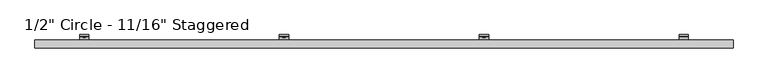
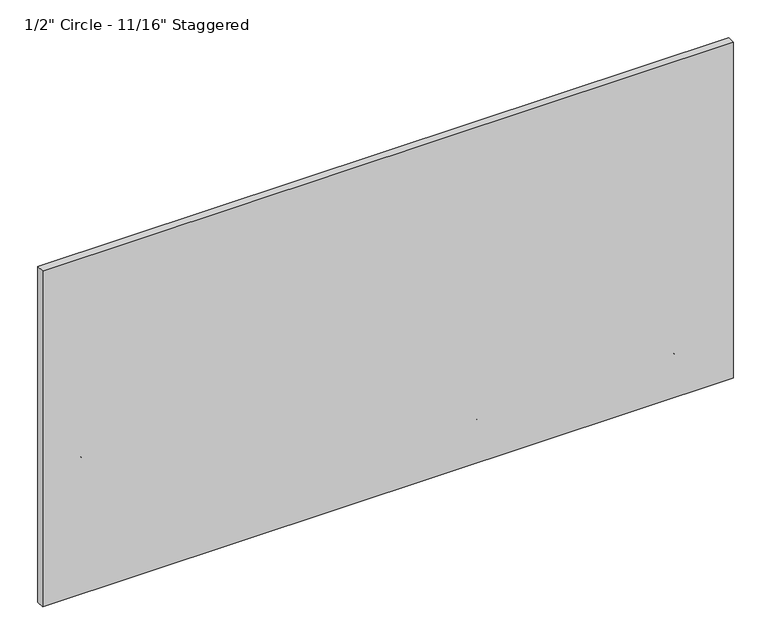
"""IFC4 building model written with IfcOpenShell, lengths in millimetres: plate geometry."""

from ifc_helpers import new_model, si_unit, point, frame, frame_2d, origin, place, context, project, spatial, polyline, circle_curve, trimmed, segment, composite_curve, outline, extrude, source, transform, mapped, element, save
from ifc_brep_helpers import plane_surface, cylinder_surface, revolved_surface, advanced_brep


def plate_ad452986(model_context):
    return source(origin(), model_context, "Body", "SolidModel", [
        advanced_brep(
        [(1216.025, -47.625, 561.2468868), (1216.025, -51.2819443, 553.5848544), (1216.025, -89.5163624, 526.8128266), (1216.025, -92.9330442, 530.2295084), (1216.025, -54.3526876, 557.2437649), (1216.025, -52.4002, 561.2469577), (1216.025, -52.4002, 595.439572), (1216.025, -47.625, 595.439572), (1254.125, -47.625, 561.2468868), (1254.125, -47.625, 595.439572), (1254.125, -52.4002, 595.439572), (1254.125, -52.4002, 561.2469577), (1254.125, -54.3526876, 557.2437649), (1254.125, -92.9330442, 530.2295084), (1254.125, -89.5163624, 526.8128266), (1254.125, -51.2819443, 553.5848544), (1241.8161889, -52.4002, 581.3943558), (1241.8161889, -52.4002, 575.0443558), (1225.5883287, -52.4002, 575.0443558), (1225.5883287, -52.4002, 581.3943558), (1241.8161889, -47.625, 575.0443558), (1241.8161889, -47.625, 581.3943558), (1225.5883287, -47.625, 581.3943558), (1225.5883287, -47.625, 575.0443558)],
        [
            (0, 1, circle_curve(frame((1216.025, -57.4802202, 561.2468868), z_axis=(-1.0, 0.0, 0.0), x_axis=(0.0, -1.0, 0.0)), 9.8552202)),
            (1, 2),
            (2, 3),
            (3, 4),
            (4, 5, circle_curve(frame((1216.025, -57.4803246, 561.2469577), z_axis=(1.0, 0.0, 0.0), x_axis=(0.0, -1.0, 0.0)), 5.0801246)),
            (5, 6),
            (6, 7),
            (7, 0),
            (8, 9),
            (9, 10),
            (10, 11),
            (11, 12, circle_curve(frame((1254.125, -57.4803246, 561.2469577), z_axis=(-1.0, 0.0, 0.0), x_axis=(0.0, -1.0, 0.0)), 5.0801246)),
            (12, 13),
            (13, 14),
            (14, 15),
            (15, 8, circle_curve(frame((1254.125, -57.4802202, 561.2468868), z_axis=(1.0, 0.0, 0.0), x_axis=(0.0, -1.0, 0.0)), 9.8552202)),
            (4, 12),
            (11, 5),
            (10, 6),
            (16, 17, circle_curve(frame((1241.8161889, -52.4002, 578.2193558), z_axis=(0.0, 1.0, 0.0), x_axis=(0.0, 0.0, -1.0)), 3.175)),
            (17, 18),
            (18, 19, circle_curve(frame((1225.5883287, -52.4002, 578.2193558), z_axis=(0.0, 1.0, 0.0), x_axis=(0.0, 0.0, -1.0)), 3.175)),
            (19, 16),
            (9, 7),
            (8, 0),
            (20, 21, circle_curve(frame((1241.8161889, -47.625, 578.2193558), z_axis=(0.0, -1.0, 0.0), x_axis=(0.0, 0.0, -1.0)), 3.175)),
            (21, 22),
            (22, 23, circle_curve(frame((1225.5883287, -47.625, 578.2193558), z_axis=(0.0, -1.0, 0.0), x_axis=(0.0, 0.0, -1.0)), 3.175)),
            (23, 20),
            (15, 1),
            (20, 17),
            (16, 21),
            (19, 22),
            (18, 23),
            (14, 2),
            (13, 3),
        ],
        [
            plane_surface(frame((1216.025, -67.3354404, 561.2468868), z_axis=(-1.0, 0.0, 0.0), x_axis=(0.0, 0.0, 1.0))),
            plane_surface(frame((1254.125, -67.3354404, 561.2468868), z_axis=(1.0, 0.0, 0.0), x_axis=(0.0, 0.0, -1.0))),
            revolved_surface(polyline([(1254.125, -62.5604492, 561.2469577), (1216.025, -62.5604492, 561.2469577)]), (1254.125, -57.4803246, 561.2469577), (1.0, 0.0, 0.0)),
            plane_surface(frame((1216.025, -52.4002, 561.2469577), z_axis=(0.0, -1.0, 0.0), x_axis=(1.0, 0.0, 0.0))),
            plane_surface(frame((1216.025, -52.4002, 595.439572), z_axis=(0.0, 0.0, 1.0), x_axis=(1.0, 0.0, 0.0))),
            plane_surface(frame((1216.025, -47.625, 595.439572), z_axis=(0.0, 1.0, 6.99569853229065e-12), x_axis=(1.0, 0.0, 0.0))),
            cylinder_surface(frame((1254.125, -57.4802202, 561.2468868), z_axis=(-1.0, 0.0, 0.0), x_axis=(0.0, -1.0, 0.0)), 9.8552202),
            revolved_surface(polyline([(1241.8161889, -52.4002, 575.0443558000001), (1241.8161889, -47.625, 575.0443558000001)]), (1241.8161889, -25.6669948, 578.2193558), (0.0, -1.0, 0.0)),
            plane_surface(frame((1241.8161889, -86.677982, 581.3943558), z_axis=(0.0, 0.0, -1.0), x_axis=(0.0, 1.0, 0.0))),
            revolved_surface(polyline([(1225.5883287, -52.4002, 575.0443558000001), (1225.5883287, -47.625, 575.0443558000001)]), (1225.5883287, -25.6669948, 578.2193558), (0.0, -1.0, 0.0)),
            plane_surface(frame((1225.5883287, -86.677982, 575.0443558), z_axis=(-2.7237733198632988e-11, 0.0, 1.0), x_axis=(0.0, 1.0, 0.0))),
            plane_surface(frame((1216.025, -51.2819443, 553.5848544), z_axis=(0.0, 0.5735764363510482, -0.8191520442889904), x_axis=(1.0, 0.0, 0.0))),
            plane_surface(frame((1216.025, -89.5163624, 526.8128266), z_axis=(0.0, -0.7071067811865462, -0.7071067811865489), x_axis=(1.0, 0.0, 0.0))),
            plane_surface(frame((1216.025, -92.9330442, 530.2295084), z_axis=(0.0, -0.5735764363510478, 0.8191520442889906), x_axis=(1.0, 0.0, 0.0))),
        ],
        [
            (0, [[1, 2, 3, 4, 5, 6, 7, 8]]),
            (1, [[9, 10, 11, 12, 13, 14, 15, 16]]),
            (2, [[-5, 17, -12, 18]]),
            (3, [[-6, -18, -11, 19], [20, 21, 22, 23]]),
            (4, [[-7, -19, -10, 24]]),
            (5, [[-8, -24, -9, 25], [26, 27, 28, 29]]),
            (6, [[-1, -25, -16, 30]]),
            (7, [[31, -20, 32, -26]]),
            (8, [[-32, -23, 33, -27]]),
            (9, [[-33, -22, 34, -28]]),
            (10, [[-31, -29, -34, -21]]),
            (11, [[-2, -30, -15, 35]]),
            (12, [[-3, -35, -14, 36]]),
            (13, [[-4, -36, -13, -17]]),
        ],
    ),
        extrude(outline(polyline([(578.3961989, 406.6736701), (574.0504864, 409.1826684), (574.0504864, 414.200665), (578.3961989, 416.7096632), (582.7419114, 414.200665), (582.7419114, 409.1826684), (578.3961989, 406.6736701)])), frame((0.0, -58.7607779, 0.0), z_axis=(0.0, 1.0, 0.0), x_axis=(0.0, 0.0, 1.0)), (0.0, 0.0, 1.0), 11.1357779),
        extrude(outline(composite_curve([segment(trimmed(circle_curve(frame_2d((578.4895059, 411.6916667)), 6.35), [point((578.4895059, 418.0416667))], [point((578.4895059, 405.3416667))], False, "CARTESIAN"), True, "CONTINUOUS"), segment(trimmed(circle_curve(frame_2d((578.4895059, 411.6916667)), 6.35), [point((578.4895059, 405.3416667))], [point((578.4895059, 418.0416667))], False, "CARTESIAN"), True, "CONTINUOUS")], self_intersect=False)), frame((0.0, -57.0817743, 0.0), z_axis=(0.0, 1.0, 0.0), x_axis=(0.0, 0.0, 1.0)), (0.0, 0.0, 1.0), 9.4567743),
        advanced_brep(
        [(392.6416667, -47.625, 561.2468868), (392.6416667, -51.2819443, 553.5848544), (392.6416667, -89.5163624, 526.8128266), (392.6416667, -92.9330442, 530.2295084), (392.6416667, -54.3526876, 557.2437649), (392.6416667, -52.4002, 561.2469577), (392.6416667, -52.4002, 595.439572), (392.6416667, -47.625, 595.439572), (430.7416667, -47.625, 561.2468868), (430.7416667, -47.625, 595.439572), (430.7416667, -52.4002, 595.439572), (430.7416667, -52.4002, 561.2469577), (430.7416667, -54.3526876, 557.2437649), (430.7416667, -92.9330442, 530.2295084), (430.7416667, -89.5163624, 526.8128266), (430.7416667, -51.2819443, 553.5848544), (418.4328556, -52.4002, 581.3943558), (418.4328556, -52.4002, 575.0443558), (402.2049954, -52.4002, 575.0443558), (402.2049954, -52.4002, 581.3943558), (418.4328556, -47.625, 575.0443558), (418.4328556, -47.625, 581.3943558), (402.2049954, -47.625, 581.3943558), (402.2049954, -47.625, 575.0443558)],
        [
            (0, 1, circle_curve(frame((392.6416667, -57.4802202, 561.2468868), z_axis=(-1.0, 0.0, 0.0), x_axis=(0.0, -1.0, 0.0)), 9.8552202)),
            (1, 2),
            (2, 3),
            (3, 4),
            (4, 5, circle_curve(frame((392.6416667, -57.4803246, 561.2469577), z_axis=(1.0, 0.0, 0.0), x_axis=(0.0, -1.0, 0.0)), 5.0801246)),
            (5, 6),
            (6, 7),
            (7, 0),
            (8, 9),
            (9, 10),
            (10, 11),
            (11, 12, circle_curve(frame((430.7416667, -57.4803246, 561.2469577), z_axis=(-1.0, 0.0, 0.0), x_axis=(0.0, -1.0, 0.0)), 5.0801246)),
            (12, 13),
            (13, 14),
            (14, 15),
            (15, 8, circle_curve(frame((430.7416667, -57.4802202, 561.2468868), z_axis=(1.0, 0.0, 0.0), x_axis=(0.0, -1.0, 0.0)), 9.8552202)),
            (4, 12),
            (11, 5),
            (10, 6),
            (16, 17, circle_curve(frame((418.4328556, -52.4002, 578.2193558), z_axis=(0.0, 1.0, 0.0), x_axis=(0.0, 0.0, -1.0)), 3.175)),
            (17, 18),
            (18, 19, circle_curve(frame((402.2049954, -52.4002, 578.2193558), z_axis=(0.0, 1.0, 0.0), x_axis=(0.0, 0.0, -1.0)), 3.175)),
            (19, 16),
            (9, 7),
            (8, 0),
            (20, 21, circle_curve(frame((418.4328556, -47.625, 578.2193558), z_axis=(0.0, -1.0, 0.0), x_axis=(0.0, 0.0, -1.0)), 3.175)),
            (21, 22),
            (22, 23, circle_curve(frame((402.2049954, -47.625, 578.2193558), z_axis=(0.0, -1.0, 0.0), x_axis=(0.0, 0.0, -1.0)), 3.175)),
            (23, 20),
            (15, 1),
            (20, 17),
            (16, 21),
            (19, 22),
            (18, 23),
            (14, 2),
            (13, 3),
        ],
        [
            plane_surface(frame((392.6416667, -67.3354404, 561.2468868), z_axis=(-1.0, 0.0, 0.0), x_axis=(0.0, 0.0, 1.0))),
            plane_surface(frame((430.7416667, -67.3354404, 561.2468868), z_axis=(1.0, 0.0, 0.0), x_axis=(0.0, 0.0, -1.0))),
            revolved_surface(polyline([(430.7416667, -62.5604492, 561.2469577), (392.6416667, -62.5604492, 561.2469577)]), (430.7416667, -57.4803246, 561.2469577), (1.0, 0.0, 0.0)),
            plane_surface(frame((392.6416667, -52.4002, 561.2469577), z_axis=(0.0, -1.0, 0.0), x_axis=(1.0, 0.0, 0.0))),
            plane_surface(frame((392.6416667, -52.4002, 595.439572), z_axis=(0.0, 0.0, 1.0), x_axis=(1.0, 0.0, 0.0))),
            plane_surface(frame((392.6416667, -47.625, 595.439572), z_axis=(0.0, 1.0, 6.99569853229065e-12), x_axis=(1.0, 0.0, 0.0))),
            cylinder_surface(frame((430.7416667, -57.4802202, 561.2468868), z_axis=(-1.0, 0.0, 0.0), x_axis=(0.0, -1.0, 0.0)), 9.8552202),
            revolved_surface(polyline([(418.4328556, -52.4002, 575.0443558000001), (418.4328556, -47.625, 575.0443558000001)]), (418.4328556, -25.6669948, 578.2193558), (0.0, -1.0, 0.0)),
            plane_surface(frame((418.4328556, -86.677982, 581.3943558), z_axis=(0.0, 0.0, -1.0), x_axis=(0.0, 1.0, 0.0))),
            revolved_surface(polyline([(402.2049954, -52.4002, 575.0443558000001), (402.2049954, -47.625, 575.0443558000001)]), (402.2049954, -25.6669948, 578.2193558), (0.0, -1.0, 0.0)),
            plane_surface(frame((402.2049954, -86.677982, 575.0443558), z_axis=(-2.7237733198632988e-11, 0.0, 1.0), x_axis=(0.0, 1.0, 0.0))),
            plane_surface(frame((392.6416667, -51.2819443, 553.5848544), z_axis=(0.0, 0.5735764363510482, -0.8191520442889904), x_axis=(1.0, 0.0, 0.0))),
            plane_surface(frame((392.6416667, -89.5163624, 526.8128266), z_axis=(0.0, -0.7071067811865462, -0.7071067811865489), x_axis=(1.0, 0.0, 0.0))),
            plane_surface(frame((392.6416667, -92.9330442, 530.2295084), z_axis=(0.0, -0.5735764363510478, 0.8191520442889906), x_axis=(1.0, 0.0, 0.0))),
        ],
        [
            (0, [[1, 2, 3, 4, 5, 6, 7, 8]]),
            (1, [[9, 10, 11, 12, 13, 14, 15, 16]]),
            (2, [[-5, 17, -12, 18]]),
            (3, [[-6, -18, -11, 19], [20, 21, 22, 23]]),
            (4, [[-7, -19, -10, 24]]),
            (5, [[-8, -24, -9, 25], [26, 27, 28, 29]]),
            (6, [[-1, -25, -16, 30]]),
            (7, [[31, -20, 32, -26]]),
            (8, [[-32, -23, 33, -27]]),
            (9, [[-33, -22, 34, -28]]),
            (10, [[-31, -29, -34, -21]]),
            (11, [[-2, -30, -15, 35]]),
            (12, [[-3, -35, -14, 36]]),
            (13, [[-4, -36, -13, -17]]),
        ],
    ),
        extrude(outline(polyline([(578.3961989, -416.7096632), (574.0504864, -414.200665), (574.0504864, -409.1826684), (578.3961989, -406.6736701), (582.7419114, -409.1826684), (582.7419114, -414.200665), (578.3961989, -416.7096632)])), frame((0.0, -58.7607779, 0.0), z_axis=(0.0, 1.0, 0.0), x_axis=(0.0, 0.0, 1.0)), (0.0, 0.0, 1.0), 11.1357779),
        extrude(outline(composite_curve([segment(trimmed(circle_curve(frame_2d((578.4895059, -411.6916667)), 6.35), [point((578.4895059, -405.3416667))], [point((578.4895059, -418.0416667))], False, "CARTESIAN"), True, "CONTINUOUS"), segment(trimmed(circle_curve(frame_2d((578.4895059, -411.6916667)), 6.35), [point((578.4895059, -418.0416667))], [point((578.4895059, -405.3416667))], False, "CARTESIAN"), True, "CONTINUOUS")], self_intersect=False)), frame((0.0, -57.0817743, 0.0), z_axis=(0.0, 1.0, 0.0), x_axis=(0.0, 0.0, 1.0)), (0.0, 0.0, 1.0), 9.4567743),
        advanced_brep(
        [(-430.7416667, -47.625, 561.2468868), (-430.7416667, -51.2819443, 553.5848544), (-430.7416667, -89.5163624, 526.8128266), (-430.7416667, -92.9330442, 530.2295084), (-430.7416667, -54.3526876, 557.2437649), (-430.7416667, -52.4002, 561.2469577), (-430.7416667, -52.4002, 595.439572), (-430.7416667, -47.625, 595.439572), (-392.6416667, -47.625, 561.2468868), (-392.6416667, -47.625, 595.439572), (-392.6416667, -52.4002, 595.439572), (-392.6416667, -52.4002, 561.2469577), (-392.6416667, -54.3526876, 557.2437649), (-392.6416667, -92.9330442, 530.2295084), (-392.6416667, -89.5163624, 526.8128266), (-392.6416667, -51.2819443, 553.5848544), (-404.9504778, -52.4002, 581.3943558), (-404.9504778, -52.4002, 575.0443558), (-421.178338, -52.4002, 575.0443558), (-421.178338, -52.4002, 581.3943558), (-404.9504778, -47.625, 575.0443558), (-404.9504778, -47.625, 581.3943558), (-421.178338, -47.625, 581.3943558), (-421.178338, -47.625, 575.0443558)],
        [
            (0, 1, circle_curve(frame((-430.7416667, -57.4802202, 561.2468868), z_axis=(-1.0, 0.0, 0.0), x_axis=(0.0, -1.0, 0.0)), 9.8552202)),
            (1, 2),
            (2, 3),
            (3, 4),
            (4, 5, circle_curve(frame((-430.7416667, -57.4803246, 561.2469577), z_axis=(1.0, 0.0, 0.0), x_axis=(0.0, -1.0, 0.0)), 5.0801246)),
            (5, 6),
            (6, 7),
            (7, 0),
            (8, 9),
            (9, 10),
            (10, 11),
            (11, 12, circle_curve(frame((-392.6416667, -57.4803246, 561.2469577), z_axis=(-1.0, 0.0, 0.0), x_axis=(0.0, -1.0, 0.0)), 5.0801246)),
            (12, 13),
            (13, 14),
            (14, 15),
            (15, 8, circle_curve(frame((-392.6416667, -57.4802202, 561.2468868), z_axis=(1.0, 0.0, 0.0), x_axis=(0.0, -1.0, 0.0)), 9.8552202)),
            (4, 12),
            (11, 5),
            (10, 6),
            (16, 17, circle_curve(frame((-404.9504778, -52.4002, 578.2193558), z_axis=(0.0, 1.0, 0.0), x_axis=(0.0, 0.0, -1.0)), 3.175)),
            (17, 18),
            (18, 19, circle_curve(frame((-421.178338, -52.4002, 578.2193558), z_axis=(0.0, 1.0, 0.0), x_axis=(0.0, 0.0, -1.0)), 3.175)),
            (19, 16),
            (9, 7),
            (8, 0),
            (20, 21, circle_curve(frame((-404.9504778, -47.625, 578.2193558), z_axis=(0.0, -1.0, 0.0), x_axis=(0.0, 0.0, -1.0)), 3.175)),
            (21, 22),
            (22, 23, circle_curve(frame((-421.178338, -47.625, 578.2193558), z_axis=(0.0, -1.0, 0.0), x_axis=(0.0, 0.0, -1.0)), 3.175)),
            (23, 20),
            (15, 1),
            (20, 17),
            (16, 21),
            (19, 22),
            (18, 23),
            (14, 2),
            (13, 3),
        ],
        [
            plane_surface(frame((-430.7416667, -67.3354404, 561.2468868), z_axis=(-1.0, 0.0, 0.0), x_axis=(0.0, 0.0, 1.0))),
            plane_surface(frame((-392.6416667, -67.3354404, 561.2468868), z_axis=(1.0, 0.0, 0.0), x_axis=(0.0, 0.0, -1.0))),
            revolved_surface(polyline([(-392.6416667, -62.5604492, 561.2469577), (-430.7416667, -62.5604492, 561.2469577)]), (-392.6416667, -57.4803246, 561.2469577), (1.0, 0.0, 0.0)),
            plane_surface(frame((-430.7416667, -52.4002, 561.2469577), z_axis=(0.0, -1.0, 0.0), x_axis=(1.0, 0.0, 0.0))),
            plane_surface(frame((-430.7416667, -52.4002, 595.439572), z_axis=(0.0, 0.0, 1.0), x_axis=(1.0, 0.0, 0.0))),
            plane_surface(frame((-430.7416667, -47.625, 595.439572), z_axis=(0.0, 1.0, 6.99569853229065e-12), x_axis=(1.0, 0.0, 0.0))),
            cylinder_surface(frame((-392.6416667, -57.4802202, 561.2468868), z_axis=(-1.0, 0.0, 0.0), x_axis=(0.0, -1.0, 0.0)), 9.8552202),
            revolved_surface(polyline([(-404.9504778, -52.4002, 575.0443558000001), (-404.9504778, -47.625, 575.0443558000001)]), (-404.9504778, -25.6669948, 578.2193558), (0.0, -1.0, 0.0)),
            plane_surface(frame((-404.9504778, -86.677982, 581.3943558), z_axis=(0.0, 0.0, -1.0), x_axis=(0.0, 1.0, 0.0))),
            revolved_surface(polyline([(-421.178338, -52.4002, 575.0443558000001), (-421.178338, -47.625, 575.0443558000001)]), (-421.178338, -25.6669948, 578.2193558), (0.0, -1.0, 0.0)),
            plane_surface(frame((-421.178338, -86.677982, 575.0443558), z_axis=(-2.7237733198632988e-11, 0.0, 1.0), x_axis=(0.0, 1.0, 0.0))),
            plane_surface(frame((-430.7416667, -51.2819443, 553.5848544), z_axis=(0.0, 0.5735764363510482, -0.8191520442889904), x_axis=(1.0, 0.0, 0.0))),
            plane_surface(frame((-430.7416667, -89.5163624, 526.8128266), z_axis=(0.0, -0.7071067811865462, -0.7071067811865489), x_axis=(1.0, 0.0, 0.0))),
            plane_surface(frame((-430.7416667, -92.9330442, 530.2295084), z_axis=(0.0, -0.5735764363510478, 0.8191520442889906), x_axis=(1.0, 0.0, 0.0))),
        ],
        [
            (0, [[1, 2, 3, 4, 5, 6, 7, 8]]),
            (1, [[9, 10, 11, 12, 13, 14, 15, 16]]),
            (2, [[-5, 17, -12, 18]]),
            (3, [[-6, -18, -11, 19], [20, 21, 22, 23]]),
            (4, [[-7, -19, -10, 24]]),
            (5, [[-8, -24, -9, 25], [26, 27, 28, 29]]),
            (6, [[-1, -25, -16, 30]]),
            (7, [[31, -20, 32, -26]]),
            (8, [[-32, -23, 33, -27]]),
            (9, [[-33, -22, 34, -28]]),
            (10, [[-31, -29, -34, -21]]),
            (11, [[-2, -30, -15, 35]]),
            (12, [[-3, -35, -14, 36]]),
            (13, [[-4, -36, -13, -17]]),
        ],
    ),
        extrude(outline(polyline([(578.3961989, -1240.0929966), (574.0504864, -1237.5839983), (574.0504864, -1232.5660017), (578.3961989, -1230.0570034), (582.7419114, -1232.5660017), (582.7419114, -1237.5839983), (578.3961989, -1240.0929966)])), frame((0.0, -58.7607779, 0.0), z_axis=(0.0, 1.0, 0.0), x_axis=(0.0, 0.0, 1.0)), (0.0, 0.0, 1.0), 11.1357779),
        extrude(outline(composite_curve([segment(trimmed(circle_curve(frame_2d((578.4895059, -1235.075)), 6.35), [point((578.4895059, -1228.725))], [point((578.4895059, -1241.425))], False, "CARTESIAN"), True, "CONTINUOUS"), segment(trimmed(circle_curve(frame_2d((578.4895059, -1235.075)), 6.35), [point((578.4895059, -1241.425))], [point((578.4895059, -1228.725))], False, "CARTESIAN"), True, "CONTINUOUS")], self_intersect=False)), frame((0.0, -57.0817743, 0.0), z_axis=(0.0, 1.0, 0.0), x_axis=(0.0, 0.0, 1.0)), (0.0, 0.0, 1.0), 9.4567743),
        advanced_brep(
        [(-1254.125, -47.625, 561.2468868), (-1254.125, -51.2819443, 553.5848544), (-1254.125, -89.5163624, 526.8128266), (-1254.125, -92.9330442, 530.2295084), (-1254.125, -54.3526876, 557.2437649), (-1254.125, -52.4002, 561.2469577), (-1254.125, -52.4002, 595.439572), (-1254.125, -47.625, 595.439572), (-1216.025, -47.625, 561.2468868), (-1216.025, -47.625, 595.439572), (-1216.025, -52.4002, 595.439572), (-1216.025, -52.4002, 561.2469577), (-1216.025, -54.3526876, 557.2437649), (-1216.025, -92.9330442, 530.2295084), (-1216.025, -89.5163624, 526.8128266), (-1216.025, -51.2819443, 553.5848544), (-1228.3338111, -52.4002, 581.3943558), (-1228.3338111, -52.4002, 575.0443558), (-1244.5616713, -52.4002, 575.0443558), (-1244.5616713, -52.4002, 581.3943558), (-1228.3338111, -47.625, 575.0443558), (-1228.3338111, -47.625, 581.3943558), (-1244.5616713, -47.625, 581.3943558), (-1244.5616713, -47.625, 575.0443558)],
        [
            (0, 1, circle_curve(frame((-1254.125, -57.4802202, 561.2468868), z_axis=(-1.0, 0.0, 0.0), x_axis=(0.0, -1.0, 0.0)), 9.8552202)),
            (1, 2),
            (2, 3),
            (3, 4),
            (4, 5, circle_curve(frame((-1254.125, -57.4803246, 561.2469577), z_axis=(1.0, 0.0, 0.0), x_axis=(0.0, -1.0, 0.0)), 5.0801246)),
            (5, 6),
            (6, 7),
            (7, 0),
            (8, 9),
            (9, 10),
            (10, 11),
            (11, 12, circle_curve(frame((-1216.025, -57.4803246, 561.2469577), z_axis=(-1.0, 0.0, 0.0), x_axis=(0.0, -1.0, 0.0)), 5.0801246)),
            (12, 13),
            (13, 14),
            (14, 15),
            (15, 8, circle_curve(frame((-1216.025, -57.4802202, 561.2468868), z_axis=(1.0, 0.0, 0.0), x_axis=(0.0, -1.0, 0.0)), 9.8552202)),
            (4, 12),
            (11, 5),
            (10, 6),
            (16, 17, circle_curve(frame((-1228.3338111, -52.4002, 578.2193558), z_axis=(0.0, 1.0, 0.0), x_axis=(0.0, 0.0, -1.0)), 3.175)),
            (17, 18),
            (18, 19, circle_curve(frame((-1244.5616713, -52.4002, 578.2193558), z_axis=(0.0, 1.0, 0.0), x_axis=(0.0, 0.0, -1.0)), 3.175)),
            (19, 16),
            (9, 7),
            (8, 0),
            (20, 21, circle_curve(frame((-1228.3338111, -47.625, 578.2193558), z_axis=(0.0, -1.0, 0.0), x_axis=(0.0, 0.0, -1.0)), 3.175)),
            (21, 22),
            (22, 23, circle_curve(frame((-1244.5616713, -47.625, 578.2193558), z_axis=(0.0, -1.0, 0.0), x_axis=(0.0, 0.0, -1.0)), 3.175)),
            (23, 20),
            (15, 1),
            (20, 17),
            (16, 21),
            (19, 22),
            (18, 23),
            (14, 2),
            (13, 3),
        ],
        [
            plane_surface(frame((-1254.125, -67.3354404, 561.2468868), z_axis=(-1.0, 0.0, 0.0), x_axis=(0.0, 0.0, 1.0))),
            plane_surface(frame((-1216.025, -67.3354404, 561.2468868), z_axis=(1.0, 0.0, 0.0), x_axis=(0.0, 0.0, -1.0))),
            revolved_surface(polyline([(-1216.025, -62.5604492, 561.2469577), (-1254.125, -62.5604492, 561.2469577)]), (-1216.025, -57.4803246, 561.2469577), (1.0, 0.0, 0.0)),
            plane_surface(frame((-1254.125, -52.4002, 561.2469577), z_axis=(0.0, -1.0, 0.0), x_axis=(1.0, 0.0, 0.0))),
            plane_surface(frame((-1254.125, -52.4002, 595.439572), z_axis=(0.0, 0.0, 1.0), x_axis=(1.0, 0.0, 0.0))),
            plane_surface(frame((-1254.125, -47.625, 595.439572), z_axis=(0.0, 1.0, 6.99569853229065e-12), x_axis=(1.0, 0.0, 0.0))),
            cylinder_surface(frame((-1216.025, -57.4802202, 561.2468868), z_axis=(-1.0, 0.0, 0.0), x_axis=(0.0, -1.0, 0.0)), 9.8552202),
            revolved_surface(polyline([(-1228.3338111, -52.4002, 575.0443558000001), (-1228.3338111, -47.625, 575.0443558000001)]), (-1228.3338111, -25.6669948, 578.2193558), (0.0, -1.0, 0.0)),
            plane_surface(frame((-1228.3338111, -86.677982, 581.3943558), z_axis=(0.0, 0.0, -1.0), x_axis=(0.0, 1.0, 0.0))),
            revolved_surface(polyline([(-1244.5616713, -52.4002, 575.0443558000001), (-1244.5616713, -47.625, 575.0443558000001)]), (-1244.5616713, -25.6669948, 578.2193558), (0.0, -1.0, 0.0)),
            plane_surface(frame((-1244.5616713, -86.677982, 575.0443558), z_axis=(-2.7237733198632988e-11, 0.0, 1.0), x_axis=(0.0, 1.0, 0.0))),
            plane_surface(frame((-1254.125, -51.2819443, 553.5848544), z_axis=(0.0, 0.5735764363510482, -0.8191520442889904), x_axis=(1.0, 0.0, 0.0))),
            plane_surface(frame((-1254.125, -89.5163624, 526.8128266), z_axis=(0.0, -0.7071067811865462, -0.7071067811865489), x_axis=(1.0, 0.0, 0.0))),
            plane_surface(frame((-1254.125, -92.9330442, 530.2295084), z_axis=(0.0, -0.5735764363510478, 0.8191520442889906), x_axis=(1.0, 0.0, 0.0))),
        ],
        [
            (0, [[1, 2, 3, 4, 5, 6, 7, 8]]),
            (1, [[9, 10, 11, 12, 13, 14, 15, 16]]),
            (2, [[-5, 17, -12, 18]]),
            (3, [[-6, -18, -11, 19], [20, 21, 22, 23]]),
            (4, [[-7, -19, -10, 24]]),
            (5, [[-8, -24, -9, 25], [26, 27, 28, 29]]),
            (6, [[-1, -25, -16, 30]]),
            (7, [[31, -20, 32, -26]]),
            (8, [[-32, -23, 33, -27]]),
            (9, [[-33, -22, 34, -28]]),
            (10, [[-31, -29, -34, -21]]),
            (11, [[-2, -30, -15, 35]]),
            (12, [[-3, -35, -14, 36]]),
            (13, [[-4, -36, -13, -17]]),
        ],
    ),
        extrude(outline(polyline([(169.8795323, 1230.0570034), (165.5338197, 1232.5660017), (165.5338197, 1237.5839983), (169.8795323, 1240.0929966), (174.2252448, 1237.5839983), (174.2252448, 1232.5660017), (169.8795323, 1230.0570034)])), frame((0.0, -58.7607779, 0.0), z_axis=(0.0, 1.0, 0.0), x_axis=(0.0, 0.0, 1.0)), (0.0, 0.0, 1.0), 11.1357779),
        extrude(outline(composite_curve([segment(trimmed(circle_curve(frame_2d((169.9728392, 1235.075)), 6.35), [point((169.9728392, 1241.425))], [point((169.9728392, 1228.725))], False, "CARTESIAN"), True, "CONTINUOUS"), segment(trimmed(circle_curve(frame_2d((169.9728392, 1235.075)), 6.35), [point((169.9728392, 1228.725))], [point((169.9728392, 1241.425))], False, "CARTESIAN"), True, "CONTINUOUS")], self_intersect=False)), frame((0.0, -57.0817743, 0.0), z_axis=(0.0, 1.0, 0.0), x_axis=(0.0, 0.0, 1.0)), (0.0, 0.0, 1.0), 9.4567743),
        advanced_brep(
        [(1216.025, -47.625, 152.7302202), (1216.025, -51.2819443, 145.0681877), (1216.025, -89.5163624, 118.29616), (1216.025, -92.9330442, 121.7128418), (1216.025, -54.3526876, 148.7270983), (1216.025, -52.4002, 152.7302911), (1216.025, -52.4002, 186.9229053), (1216.025, -47.625, 186.9229053), (1254.125, -47.625, 152.7302202), (1254.125, -47.625, 186.9229053), (1254.125, -52.4002, 186.9229053), (1254.125, -52.4002, 152.7302911), (1254.125, -54.3526876, 148.7270983), (1254.125, -92.9330442, 121.7128418), (1254.125, -89.5163624, 118.29616), (1254.125, -51.2819443, 145.0681877), (1241.8161889, -52.4002, 172.8776891), (1241.8161889, -52.4002, 166.5276891), (1225.5883287, -52.4002, 166.5276891), (1225.5883287, -52.4002, 172.8776891), (1241.8161889, -47.625, 166.5276891), (1241.8161889, -47.625, 172.8776891), (1225.5883287, -47.625, 172.8776891), (1225.5883287, -47.625, 166.5276891)],
        [
            (0, 1, circle_curve(frame((1216.025, -57.4802202, 152.7302202), z_axis=(-1.0, 0.0, 0.0), x_axis=(0.0, -1.0, 0.0)), 9.8552202)),
            (1, 2),
            (2, 3),
            (3, 4),
            (4, 5, circle_curve(frame((1216.025, -57.4803246, 152.7302911), z_axis=(1.0, 0.0, 0.0), x_axis=(0.0, -1.0, 0.0)), 5.0801246)),
            (5, 6),
            (6, 7),
            (7, 0),
            (8, 9),
            (9, 10),
            (10, 11),
            (11, 12, circle_curve(frame((1254.125, -57.4803246, 152.7302911), z_axis=(-1.0, 0.0, 0.0), x_axis=(0.0, -1.0, 0.0)), 5.0801246)),
            (12, 13),
            (13, 14),
            (14, 15),
            (15, 8, circle_curve(frame((1254.125, -57.4802202, 152.7302202), z_axis=(1.0, 0.0, 0.0), x_axis=(0.0, -1.0, 0.0)), 9.8552202)),
            (4, 12),
            (11, 5),
            (10, 6),
            (16, 17, circle_curve(frame((1241.8161889, -52.4002, 169.7026891), z_axis=(0.0, 1.0, 0.0), x_axis=(0.0, 0.0, -1.0)), 3.175)),
            (17, 18),
            (18, 19, circle_curve(frame((1225.5883287, -52.4002, 169.7026891), z_axis=(0.0, 1.0, 0.0), x_axis=(0.0, 0.0, -1.0)), 3.175)),
            (19, 16),
            (9, 7),
            (8, 0),
            (20, 21, circle_curve(frame((1241.8161889, -47.625, 169.7026891), z_axis=(0.0, -1.0, 0.0), x_axis=(0.0, 0.0, -1.0)), 3.175)),
            (21, 22),
            (22, 23, circle_curve(frame((1225.5883287, -47.625, 169.7026891), z_axis=(0.0, -1.0, 0.0), x_axis=(0.0, 0.0, -1.0)), 3.175)),
            (23, 20),
            (15, 1),
            (20, 17),
            (16, 21),
            (19, 22),
            (18, 23),
            (14, 2),
            (13, 3),
        ],
        [
            plane_surface(frame((1216.025, -67.3354404, 152.7302202), z_axis=(-1.0, 0.0, 0.0), x_axis=(0.0, 0.0, 1.0))),
            plane_surface(frame((1254.125, -67.3354404, 152.7302202), z_axis=(1.0, 0.0, 0.0), x_axis=(0.0, 0.0, -1.0))),
            revolved_surface(polyline([(1254.125, -62.5604492, 152.7302911), (1216.025, -62.5604492, 152.7302911)]), (1254.125, -57.4803246, 152.7302911), (1.0, 0.0, 0.0)),
            plane_surface(frame((1216.025, -52.4002, 152.7302911), z_axis=(0.0, -1.0, 0.0), x_axis=(1.0, 0.0, 0.0))),
            plane_surface(frame((1216.025, -52.4002, 186.9229053), z_axis=(0.0, 0.0, 1.0), x_axis=(1.0, 0.0, 0.0))),
            plane_surface(frame((1216.025, -47.625, 186.9229053), z_axis=(0.0, 1.0, 6.99569853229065e-12), x_axis=(1.0, 0.0, 0.0))),
            cylinder_surface(frame((1254.125, -57.4802202, 152.7302202), z_axis=(-1.0, 0.0, 0.0), x_axis=(0.0, -1.0, 0.0)), 9.8552202),
            revolved_surface(polyline([(1241.8161889, -52.4002, 166.52768909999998), (1241.8161889, -47.625, 166.52768909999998)]), (1241.8161889, -25.6669948, 169.7026891), (0.0, -1.0, 0.0)),
            plane_surface(frame((1241.8161889, -86.677982, 172.8776891), z_axis=(0.0, 0.0, -1.0), x_axis=(0.0, 1.0, 0.0))),
            revolved_surface(polyline([(1225.5883287, -52.4002, 166.52768909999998), (1225.5883287, -47.625, 166.52768909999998)]), (1225.5883287, -25.6669948, 169.7026891), (0.0, -1.0, 0.0)),
            plane_surface(frame((1225.5883287, -86.677982, 166.5276891), z_axis=(-2.723774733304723e-11, 0.0, 1.0), x_axis=(0.0, 1.0, 0.0))),
            plane_surface(frame((1216.025, -51.2819443, 145.0681877), z_axis=(0.0, 0.5735764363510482, -0.8191520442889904), x_axis=(1.0, 0.0, 0.0))),
            plane_surface(frame((1216.025, -89.5163624, 118.29616), z_axis=(0.0, -0.7071067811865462, -0.7071067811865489), x_axis=(1.0, 0.0, 0.0))),
            plane_surface(frame((1216.025, -92.9330442, 121.7128418), z_axis=(0.0, -0.5735764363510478, 0.8191520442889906), x_axis=(1.0, 0.0, 0.0))),
        ],
        [
            (0, [[1, 2, 3, 4, 5, 6, 7, 8]]),
            (1, [[9, 10, 11, 12, 13, 14, 15, 16]]),
            (2, [[-5, 17, -12, 18]]),
            (3, [[-6, -18, -11, 19], [20, 21, 22, 23]]),
            (4, [[-7, -19, -10, 24]]),
            (5, [[-8, -24, -9, 25], [26, 27, 28, 29]]),
            (6, [[-1, -25, -16, 30]]),
            (7, [[31, -20, 32, -26]]),
            (8, [[-32, -23, 33, -27]]),
            (9, [[-33, -22, 34, -28]]),
            (10, [[-31, -29, -34, -21]]),
            (11, [[-2, -30, -15, 35]]),
            (12, [[-3, -35, -14, 36]]),
            (13, [[-4, -36, -13, -17]]),
        ],
    ),
        extrude(outline(polyline([(169.8795323, 406.6736701), (165.5338197, 409.1826684), (165.5338197, 414.200665), (169.8795323, 416.7096632), (174.2252448, 414.200665), (174.2252448, 409.1826684), (169.8795323, 406.6736701)])), frame((0.0, -58.7607779, 0.0), z_axis=(0.0, 1.0, 0.0), x_axis=(0.0, 0.0, 1.0)), (0.0, 0.0, 1.0), 11.1357779),
        extrude(outline(composite_curve([segment(trimmed(circle_curve(frame_2d((169.9728392, 411.6916667)), 6.35), [point((169.9728392, 418.0416667))], [point((169.9728392, 405.3416667))], False, "CARTESIAN"), True, "CONTINUOUS"), segment(trimmed(circle_curve(frame_2d((169.9728392, 411.6916667)), 6.35), [point((169.9728392, 405.3416667))], [point((169.9728392, 418.0416667))], False, "CARTESIAN"), True, "CONTINUOUS")], self_intersect=False)), frame((0.0, -57.0817743, 0.0), z_axis=(0.0, 1.0, 0.0), x_axis=(0.0, 0.0, 1.0)), (0.0, 0.0, 1.0), 9.4567743),
        advanced_brep(
        [(392.6416667, -47.625, 152.7302202), (392.6416667, -51.2819443, 145.0681877), (392.6416667, -89.5163624, 118.29616), (392.6416667, -92.9330442, 121.7128418), (392.6416667, -54.3526876, 148.7270983), (392.6416667, -52.4002, 152.7302911), (392.6416667, -52.4002, 186.9229053), (392.6416667, -47.625, 186.9229053), (430.7416667, -47.625, 152.7302202), (430.7416667, -47.625, 186.9229053), (430.7416667, -52.4002, 186.9229053), (430.7416667, -52.4002, 152.7302911), (430.7416667, -54.3526876, 148.7270983), (430.7416667, -92.9330442, 121.7128418), (430.7416667, -89.5163624, 118.29616), (430.7416667, -51.2819443, 145.0681877), (418.4328556, -52.4002, 172.8776891), (418.4328556, -52.4002, 166.5276891), (402.2049954, -52.4002, 166.5276891), (402.2049954, -52.4002, 172.8776891), (418.4328556, -47.625, 166.5276891), (418.4328556, -47.625, 172.8776891), (402.2049954, -47.625, 172.8776891), (402.2049954, -47.625, 166.5276891)],
        [
            (0, 1, circle_curve(frame((392.6416667, -57.4802202, 152.7302202), z_axis=(-1.0, 0.0, 0.0), x_axis=(0.0, -1.0, 0.0)), 9.8552202)),
            (1, 2),
            (2, 3),
            (3, 4),
            (4, 5, circle_curve(frame((392.6416667, -57.4803246, 152.7302911), z_axis=(1.0, 0.0, 0.0), x_axis=(0.0, -1.0, 0.0)), 5.0801246)),
            (5, 6),
            (6, 7),
            (7, 0),
            (8, 9),
            (9, 10),
            (10, 11),
            (11, 12, circle_curve(frame((430.7416667, -57.4803246, 152.7302911), z_axis=(-1.0, 0.0, 0.0), x_axis=(0.0, -1.0, 0.0)), 5.0801246)),
            (12, 13),
            (13, 14),
            (14, 15),
            (15, 8, circle_curve(frame((430.7416667, -57.4802202, 152.7302202), z_axis=(1.0, 0.0, 0.0), x_axis=(0.0, -1.0, 0.0)), 9.8552202)),
            (4, 12),
            (11, 5),
            (10, 6),
            (16, 17, circle_curve(frame((418.4328556, -52.4002, 169.7026891), z_axis=(0.0, 1.0, 0.0), x_axis=(0.0, 0.0, -1.0)), 3.175)),
            (17, 18),
            (18, 19, circle_curve(frame((402.2049954, -52.4002, 169.7026891), z_axis=(0.0, 1.0, 0.0), x_axis=(0.0, 0.0, -1.0)), 3.175)),
            (19, 16),
            (9, 7),
            (8, 0),
            (20, 21, circle_curve(frame((418.4328556, -47.625, 169.7026891), z_axis=(0.0, -1.0, 0.0), x_axis=(0.0, 0.0, -1.0)), 3.175)),
            (21, 22),
            (22, 23, circle_curve(frame((402.2049954, -47.625, 169.7026891), z_axis=(0.0, -1.0, 0.0), x_axis=(0.0, 0.0, -1.0)), 3.175)),
            (23, 20),
            (15, 1),
            (20, 17),
            (16, 21),
            (19, 22),
            (18, 23),
            (14, 2),
            (13, 3),
        ],
        [
            plane_surface(frame((392.6416667, -67.3354404, 152.7302202), z_axis=(-1.0, 0.0, 0.0), x_axis=(0.0, 0.0, 1.0))),
            plane_surface(frame((430.7416667, -67.3354404, 152.7302202), z_axis=(1.0, 0.0, 0.0), x_axis=(0.0, 0.0, -1.0))),
            revolved_surface(polyline([(430.7416667, -62.5604492, 152.7302911), (392.6416667, -62.5604492, 152.7302911)]), (430.7416667, -57.4803246, 152.7302911), (1.0, 0.0, 0.0)),
            plane_surface(frame((392.6416667, -52.4002, 152.7302911), z_axis=(0.0, -1.0, 0.0), x_axis=(1.0, 0.0, 0.0))),
            plane_surface(frame((392.6416667, -52.4002, 186.9229053), z_axis=(0.0, 0.0, 1.0), x_axis=(1.0, 0.0, 0.0))),
            plane_surface(frame((392.6416667, -47.625, 186.9229053), z_axis=(0.0, 1.0, 6.99569853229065e-12), x_axis=(1.0, 0.0, 0.0))),
            cylinder_surface(frame((430.7416667, -57.4802202, 152.7302202), z_axis=(-1.0, 0.0, 0.0), x_axis=(0.0, -1.0, 0.0)), 9.8552202),
            revolved_surface(polyline([(418.4328556, -52.4002, 166.52768909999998), (418.4328556, -47.625, 166.52768909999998)]), (418.4328556, -25.6669948, 169.7026891), (0.0, -1.0, 0.0)),
            plane_surface(frame((418.4328556, -86.677982, 172.8776891), z_axis=(0.0, 0.0, -1.0), x_axis=(0.0, 1.0, 0.0))),
            revolved_surface(polyline([(402.2049954, -52.4002, 166.52768909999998), (402.2049954, -47.625, 166.52768909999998)]), (402.2049954, -25.6669948, 169.7026891), (0.0, -1.0, 0.0)),
            plane_surface(frame((402.2049954, -86.677982, 166.5276891), z_axis=(-2.723774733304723e-11, 0.0, 1.0), x_axis=(0.0, 1.0, 0.0))),
            plane_surface(frame((392.6416667, -51.2819443, 145.0681877), z_axis=(0.0, 0.5735764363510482, -0.8191520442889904), x_axis=(1.0, 0.0, 0.0))),
            plane_surface(frame((392.6416667, -89.5163624, 118.29616), z_axis=(0.0, -0.7071067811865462, -0.7071067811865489), x_axis=(1.0, 0.0, 0.0))),
            plane_surface(frame((392.6416667, -92.9330442, 121.7128418), z_axis=(0.0, -0.5735764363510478, 0.8191520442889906), x_axis=(1.0, 0.0, 0.0))),
        ],
        [
            (0, [[1, 2, 3, 4, 5, 6, 7, 8]]),
            (1, [[9, 10, 11, 12, 13, 14, 15, 16]]),
            (2, [[-5, 17, -12, 18]]),
            (3, [[-6, -18, -11, 19], [20, 21, 22, 23]]),
            (4, [[-7, -19, -10, 24]]),
            (5, [[-8, -24, -9, 25], [26, 27, 28, 29]]),
            (6, [[-1, -25, -16, 30]]),
            (7, [[31, -20, 32, -26]]),
            (8, [[-32, -23, 33, -27]]),
            (9, [[-33, -22, 34, -28]]),
            (10, [[-31, -29, -34, -21]]),
            (11, [[-2, -30, -15, 35]]),
            (12, [[-3, -35, -14, 36]]),
            (13, [[-4, -36, -13, -17]]),
        ],
    ),
        extrude(outline(polyline([(169.8795323, -416.7096632), (165.5338197, -414.200665), (165.5338197, -409.1826684), (169.8795323, -406.6736701), (174.2252448, -409.1826684), (174.2252448, -414.200665), (169.8795323, -416.7096632)])), frame((0.0, -58.7607779, 0.0), z_axis=(0.0, 1.0, 0.0), x_axis=(0.0, 0.0, 1.0)), (0.0, 0.0, 1.0), 11.1357779),
        extrude(outline(composite_curve([segment(trimmed(circle_curve(frame_2d((169.9728392, -411.6916667)), 6.35), [point((169.9728392, -405.3416667))], [point((169.9728392, -418.0416667))], False, "CARTESIAN"), True, "CONTINUOUS"), segment(trimmed(circle_curve(frame_2d((169.9728392, -411.6916667)), 6.35), [point((169.9728392, -418.0416667))], [point((169.9728392, -405.3416667))], False, "CARTESIAN"), True, "CONTINUOUS")], self_intersect=False)), frame((0.0, -57.0817743, 0.0), z_axis=(0.0, 1.0, 0.0), x_axis=(0.0, 0.0, 1.0)), (0.0, 0.0, 1.0), 9.4567743),
        advanced_brep(
        [(-430.7416667, -47.625, 152.7302202), (-430.7416667, -51.2819443, 145.0681877), (-430.7416667, -89.5163624, 118.29616), (-430.7416667, -92.9330442, 121.7128418), (-430.7416667, -54.3526876, 148.7270983), (-430.7416667, -52.4002, 152.7302911), (-430.7416667, -52.4002, 186.9229053), (-430.7416667, -47.625, 186.9229053), (-392.6416667, -47.625, 152.7302202), (-392.6416667, -47.625, 186.9229053), (-392.6416667, -52.4002, 186.9229053), (-392.6416667, -52.4002, 152.7302911), (-392.6416667, -54.3526876, 148.7270983), (-392.6416667, -92.9330442, 121.7128418), (-392.6416667, -89.5163624, 118.29616), (-392.6416667, -51.2819443, 145.0681877), (-404.9504778, -52.4002, 172.8776891), (-404.9504778, -52.4002, 166.5276891), (-421.178338, -52.4002, 166.5276891), (-421.178338, -52.4002, 172.8776891), (-404.9504778, -47.625, 166.5276891), (-404.9504778, -47.625, 172.8776891), (-421.178338, -47.625, 172.8776891), (-421.178338, -47.625, 166.5276891)],
        [
            (0, 1, circle_curve(frame((-430.7416667, -57.4802202, 152.7302202), z_axis=(-1.0, 0.0, 0.0), x_axis=(0.0, -1.0, 0.0)), 9.8552202)),
            (1, 2),
            (2, 3),
            (3, 4),
            (4, 5, circle_curve(frame((-430.7416667, -57.4803246, 152.7302911), z_axis=(1.0, 0.0, 0.0), x_axis=(0.0, -1.0, 0.0)), 5.0801246)),
            (5, 6),
            (6, 7),
            (7, 0),
            (8, 9),
            (9, 10),
            (10, 11),
            (11, 12, circle_curve(frame((-392.6416667, -57.4803246, 152.7302911), z_axis=(-1.0, 0.0, 0.0), x_axis=(0.0, -1.0, 0.0)), 5.0801246)),
            (12, 13),
            (13, 14),
            (14, 15),
            (15, 8, circle_curve(frame((-392.6416667, -57.4802202, 152.7302202), z_axis=(1.0, 0.0, 0.0), x_axis=(0.0, -1.0, 0.0)), 9.8552202)),
            (4, 12),
            (11, 5),
            (10, 6),
            (16, 17, circle_curve(frame((-404.9504778, -52.4002, 169.7026891), z_axis=(0.0, 1.0, 0.0), x_axis=(0.0, 0.0, -1.0)), 3.175)),
            (17, 18),
            (18, 19, circle_curve(frame((-421.178338, -52.4002, 169.7026891), z_axis=(0.0, 1.0, 0.0), x_axis=(0.0, 0.0, -1.0)), 3.175)),
            (19, 16),
            (9, 7),
            (8, 0),
            (20, 21, circle_curve(frame((-404.9504778, -47.625, 169.7026891), z_axis=(0.0, -1.0, 0.0), x_axis=(0.0, 0.0, -1.0)), 3.175)),
            (21, 22),
            (22, 23, circle_curve(frame((-421.178338, -47.625, 169.7026891), z_axis=(0.0, -1.0, 0.0), x_axis=(0.0, 0.0, -1.0)), 3.175)),
            (23, 20),
            (15, 1),
            (20, 17),
            (16, 21),
            (19, 22),
            (18, 23),
            (14, 2),
            (13, 3),
        ],
        [
            plane_surface(frame((-430.7416667, -67.3354404, 152.7302202), z_axis=(-1.0, 0.0, 0.0), x_axis=(0.0, 0.0, 1.0))),
            plane_surface(frame((-392.6416667, -67.3354404, 152.7302202), z_axis=(1.0, 0.0, 0.0), x_axis=(0.0, 0.0, -1.0))),
            revolved_surface(polyline([(-392.6416667, -62.5604492, 152.7302911), (-430.7416667, -62.5604492, 152.7302911)]), (-392.6416667, -57.4803246, 152.7302911), (1.0, 0.0, 0.0)),
            plane_surface(frame((-430.7416667, -52.4002, 152.7302911), z_axis=(0.0, -1.0, 0.0), x_axis=(1.0, 0.0, 0.0))),
            plane_surface(frame((-430.7416667, -52.4002, 186.9229053), z_axis=(0.0, 0.0, 1.0), x_axis=(1.0, 0.0, 0.0))),
            plane_surface(frame((-430.7416667, -47.625, 186.9229053), z_axis=(0.0, 1.0, 6.99569853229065e-12), x_axis=(1.0, 0.0, 0.0))),
            cylinder_surface(frame((-392.6416667, -57.4802202, 152.7302202), z_axis=(-1.0, 0.0, 0.0), x_axis=(0.0, -1.0, 0.0)), 9.8552202),
            revolved_surface(polyline([(-404.9504778, -52.4002, 166.52768909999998), (-404.9504778, -47.625, 166.52768909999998)]), (-404.9504778, -25.6669948, 169.7026891), (0.0, -1.0, 0.0)),
            plane_surface(frame((-404.9504778, -86.677982, 172.8776891), z_axis=(0.0, 0.0, -1.0), x_axis=(0.0, 1.0, 0.0))),
            revolved_surface(polyline([(-421.178338, -52.4002, 166.52768909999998), (-421.178338, -47.625, 166.52768909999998)]), (-421.178338, -25.6669948, 169.7026891), (0.0, -1.0, 0.0)),
            plane_surface(frame((-421.178338, -86.677982, 166.5276891), z_axis=(-2.723774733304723e-11, 0.0, 1.0), x_axis=(0.0, 1.0, 0.0))),
            plane_surface(frame((-430.7416667, -51.2819443, 145.0681877), z_axis=(0.0, 0.5735764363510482, -0.8191520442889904), x_axis=(1.0, 0.0, 0.0))),
            plane_surface(frame((-430.7416667, -89.5163624, 118.29616), z_axis=(0.0, -0.7071067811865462, -0.7071067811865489), x_axis=(1.0, 0.0, 0.0))),
            plane_surface(frame((-430.7416667, -92.9330442, 121.7128418), z_axis=(0.0, -0.5735764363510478, 0.8191520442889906), x_axis=(1.0, 0.0, 0.0))),
        ],
        [
            (0, [[1, 2, 3, 4, 5, 6, 7, 8]]),
            (1, [[9, 10, 11, 12, 13, 14, 15, 16]]),
            (2, [[-5, 17, -12, 18]]),
            (3, [[-6, -18, -11, 19], [20, 21, 22, 23]]),
            (4, [[-7, -19, -10, 24]]),
            (5, [[-8, -24, -9, 25], [26, 27, 28, 29]]),
            (6, [[-1, -25, -16, 30]]),
            (7, [[31, -20, 32, -26]]),
            (8, [[-32, -23, 33, -27]]),
            (9, [[-33, -22, 34, -28]]),
            (10, [[-31, -29, -34, -21]]),
            (11, [[-2, -30, -15, 35]]),
            (12, [[-3, -35, -14, 36]]),
            (13, [[-4, -36, -13, -17]]),
        ],
    ),
        extrude(outline(polyline([(169.8795323, -1240.0929966), (165.5338197, -1237.5839983), (165.5338197, -1232.5660017), (169.8795323, -1230.0570034), (174.2252448, -1232.5660017), (174.2252448, -1237.5839983), (169.8795323, -1240.0929966)])), frame((0.0, -58.7607779, 0.0), z_axis=(0.0, 1.0, 0.0), x_axis=(0.0, 0.0, 1.0)), (0.0, 0.0, 1.0), 11.1357779),
        extrude(outline(composite_curve([segment(trimmed(circle_curve(frame_2d((169.9728392, -1235.075)), 6.35), [point((169.9728392, -1228.725))], [point((169.9728392, -1241.425))], False, "CARTESIAN"), True, "CONTINUOUS"), segment(trimmed(circle_curve(frame_2d((169.9728392, -1235.075)), 6.35), [point((169.9728392, -1241.425))], [point((169.9728392, -1228.725))], False, "CARTESIAN"), True, "CONTINUOUS")], self_intersect=False)), frame((0.0, -57.0817743, 0.0), z_axis=(0.0, 1.0, 0.0), x_axis=(0.0, 0.0, 1.0)), (0.0, 0.0, 1.0), 9.4567743),
        advanced_brep(
        [(-1254.125, -47.625, 152.7302202), (-1254.125, -51.2819443, 145.0681877), (-1254.125, -89.5163624, 118.29616), (-1254.125, -92.9330442, 121.7128418), (-1254.125, -54.3526876, 148.7270983), (-1254.125, -52.4002, 152.7302911), (-1254.125, -52.4002, 186.9229053), (-1254.125, -47.625, 186.9229053), (-1216.025, -47.625, 152.7302202), (-1216.025, -47.625, 186.9229053), (-1216.025, -52.4002, 186.9229053), (-1216.025, -52.4002, 152.7302911), (-1216.025, -54.3526876, 148.7270983), (-1216.025, -92.9330442, 121.7128418), (-1216.025, -89.5163624, 118.29616), (-1216.025, -51.2819443, 145.0681877), (-1228.3338111, -52.4002, 172.8776891), (-1228.3338111, -52.4002, 166.5276891), (-1244.5616713, -52.4002, 166.5276891), (-1244.5616713, -52.4002, 172.8776891), (-1228.3338111, -47.625, 166.5276891), (-1228.3338111, -47.625, 172.8776891), (-1244.5616713, -47.625, 172.8776891), (-1244.5616713, -47.625, 166.5276891)],
        [
            (0, 1, circle_curve(frame((-1254.125, -57.4802202, 152.7302202), z_axis=(-1.0, 0.0, 0.0), x_axis=(0.0, -1.0, 0.0)), 9.8552202)),
            (1, 2),
            (2, 3),
            (3, 4),
            (4, 5, circle_curve(frame((-1254.125, -57.4803246, 152.7302911), z_axis=(1.0, 0.0, 0.0), x_axis=(0.0, -1.0, 0.0)), 5.0801246)),
            (5, 6),
            (6, 7),
            (7, 0),
            (8, 9),
            (9, 10),
            (10, 11),
            (11, 12, circle_curve(frame((-1216.025, -57.4803246, 152.7302911), z_axis=(-1.0, 0.0, 0.0), x_axis=(0.0, -1.0, 0.0)), 5.0801246)),
            (12, 13),
            (13, 14),
            (14, 15),
            (15, 8, circle_curve(frame((-1216.025, -57.4802202, 152.7302202), z_axis=(1.0, 0.0, 0.0), x_axis=(0.0, -1.0, 0.0)), 9.8552202)),
            (4, 12),
            (11, 5),
            (10, 6),
            (16, 17, circle_curve(frame((-1228.3338111, -52.4002, 169.7026891), z_axis=(0.0, 1.0, 0.0), x_axis=(0.0, 0.0, -1.0)), 3.175)),
            (17, 18),
            (18, 19, circle_curve(frame((-1244.5616713, -52.4002, 169.7026891), z_axis=(0.0, 1.0, 0.0), x_axis=(0.0, 0.0, -1.0)), 3.175)),
            (19, 16),
            (9, 7),
            (8, 0),
            (20, 21, circle_curve(frame((-1228.3338111, -47.625, 169.7026891), z_axis=(0.0, -1.0, 0.0), x_axis=(0.0, 0.0, -1.0)), 3.175)),
            (21, 22),
            (22, 23, circle_curve(frame((-1244.5616713, -47.625, 169.7026891), z_axis=(0.0, -1.0, 0.0), x_axis=(0.0, 0.0, -1.0)), 3.175)),
            (23, 20),
            (15, 1),
            (20, 17),
            (16, 21),
            (19, 22),
            (18, 23),
            (14, 2),
            (13, 3),
        ],
        [
            plane_surface(frame((-1254.125, -67.3354404, 152.7302202), z_axis=(-1.0, 0.0, 0.0), x_axis=(0.0, 0.0, 1.0))),
            plane_surface(frame((-1216.025, -67.3354404, 152.7302202), z_axis=(1.0, 0.0, 0.0), x_axis=(0.0, 0.0, -1.0))),
            revolved_surface(polyline([(-1216.025, -62.5604492, 152.7302911), (-1254.125, -62.5604492, 152.7302911)]), (-1216.025, -57.4803246, 152.7302911), (1.0, 0.0, 0.0)),
            plane_surface(frame((-1254.125, -52.4002, 152.7302911), z_axis=(0.0, -1.0, 0.0), x_axis=(1.0, 0.0, 0.0))),
            plane_surface(frame((-1254.125, -52.4002, 186.9229053), z_axis=(0.0, 0.0, 1.0), x_axis=(1.0, 0.0, 0.0))),
            plane_surface(frame((-1254.125, -47.625, 186.9229053), z_axis=(0.0, 1.0, 6.99569853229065e-12), x_axis=(1.0, 0.0, 0.0))),
            cylinder_surface(frame((-1216.025, -57.4802202, 152.7302202), z_axis=(-1.0, 0.0, 0.0), x_axis=(0.0, -1.0, 0.0)), 9.8552202),
            revolved_surface(polyline([(-1228.3338111, -52.4002, 166.52768909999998), (-1228.3338111, -47.625, 166.52768909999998)]), (-1228.3338111, -25.6669948, 169.7026891), (0.0, -1.0, 0.0)),
            plane_surface(frame((-1228.3338111, -86.677982, 172.8776891), z_axis=(0.0, 0.0, -1.0), x_axis=(0.0, 1.0, 0.0))),
            revolved_surface(polyline([(-1244.5616713, -52.4002, 166.52768909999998), (-1244.5616713, -47.625, 166.52768909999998)]), (-1244.5616713, -25.6669948, 169.7026891), (0.0, -1.0, 0.0)),
            plane_surface(frame((-1244.5616713, -86.677982, 166.5276891), z_axis=(-2.723774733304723e-11, 0.0, 1.0), x_axis=(0.0, 1.0, 0.0))),
            plane_surface(frame((-1254.125, -51.2819443, 145.0681877), z_axis=(0.0, 0.5735764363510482, -0.8191520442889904), x_axis=(1.0, 0.0, 0.0))),
            plane_surface(frame((-1254.125, -89.5163624, 118.29616), z_axis=(0.0, -0.7071067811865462, -0.7071067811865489), x_axis=(1.0, 0.0, 0.0))),
            plane_surface(frame((-1254.125, -92.9330442, 121.7128418), z_axis=(0.0, -0.5735764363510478, 0.8191520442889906), x_axis=(1.0, 0.0, 0.0))),
        ],
        [
            (0, [[1, 2, 3, 4, 5, 6, 7, 8]]),
            (1, [[9, 10, 11, 12, 13, 14, 15, 16]]),
            (2, [[-5, 17, -12, 18]]),
            (3, [[-6, -18, -11, 19], [20, 21, 22, 23]]),
            (4, [[-7, -19, -10, 24]]),
            (5, [[-8, -24, -9, 25], [26, 27, 28, 29]]),
            (6, [[-1, -25, -16, 30]]),
            (7, [[31, -20, 32, -26]]),
            (8, [[-32, -23, 33, -27]]),
            (9, [[-33, -22, 34, -28]]),
            (10, [[-31, -29, -34, -21]]),
            (11, [[-2, -30, -15, 35]]),
            (12, [[-3, -35, -14, 36]]),
            (13, [[-4, -36, -13, -17]]),
        ],
    ),
        extrude(outline(polyline([(1438.275, -102.4064478), (-1438.275, -102.4064478), (-1438.275, -69.9147678), (1438.275, -69.9147678), (1438.275, -102.4064478)])), frame((0.0, 0.0, 15.875), z_axis=(0.0, 0.0, 1.0), x_axis=(1.0, 0.0, 0.0)), (0.0, 0.0, 1.0), 1479.55),
    ])


if __name__ == "__main__":
    model = new_model("IFC4")
    model_context = context("Model", 3, world=origin())
    ifc_project = project(units=[si_unit("LENGTHUNIT", "METRE", prefix="MILLI")], contexts=[model_context])
    site = spatial("IfcSite", under=ifc_project)
    building = spatial("IfcBuilding", under=site)
    placement = place(None, origin())
    plate_shape = plate_ad452986(model_context)
    element("IfcPlate", 1, ObjectType="Single-Panel-Perforated-Amico_Architectural : 1/2\" Circle - 11/16\" Staggered", at=placement, inside=building, context=model_context, shape_type="MappedRepresentation", body=[
        mapped(plate_shape, transform((0.0, 0.0, 0.0), x_axis=(1.0, 0.0, 0.0), y_axis=(0.0, 1.0, 0.0), z_axis=(0.0, 0.0, 1.0))),
    ])
    save(model, "model.ifc")
